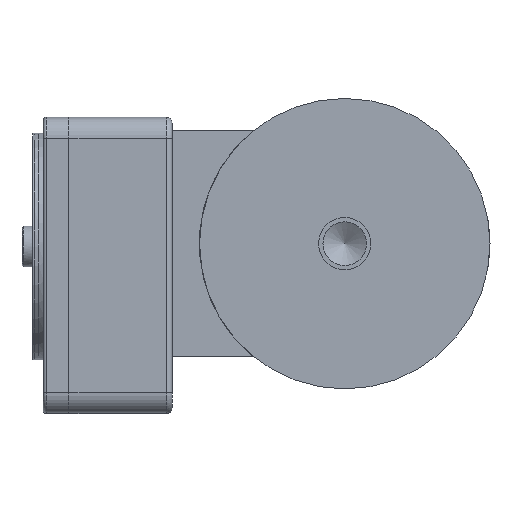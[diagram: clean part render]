
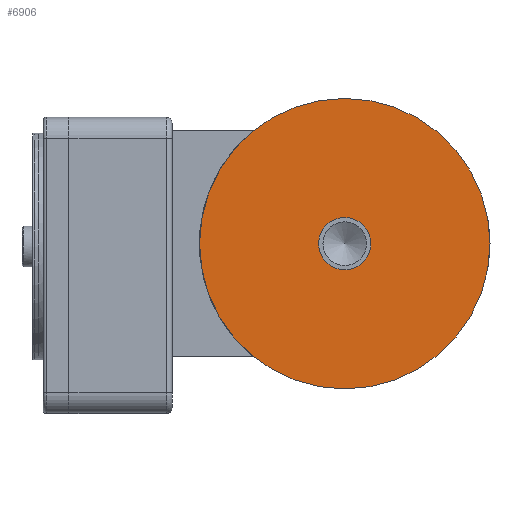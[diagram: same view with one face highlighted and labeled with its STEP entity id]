
A CAD part, front view. The second image highlights one B-rep face of the part: STEP entity #6906.
In plain terms, the highlighted planar face has unit normal (0, -1, 0).
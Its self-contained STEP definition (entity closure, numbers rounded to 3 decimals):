
#511=FACE_BOUND('',#1309,.T.);
#586=PLANE('',#7398);
#874=FACE_OUTER_BOUND('',#1308,.T.);
#1308=EDGE_LOOP('',(#4826));
#1309=EDGE_LOOP('',(#4827));
#2737=CIRCLE('',#7363,9.);
#2756=CIRCLE('',#7395,50.);
#3167=VERTEX_POINT('',#10493);
#3186=VERTEX_POINT('',#10551);
#3785=EDGE_CURVE('',#3167,#3167,#2737,.T.);
#3811=EDGE_CURVE('',#3186,#3186,#2756,.T.);
#4826=ORIENTED_EDGE('',*,*,#3811,.T.);
#4827=ORIENTED_EDGE('',*,*,#3785,.T.);
#6906=ADVANCED_FACE('',(#874,#511),#586,.T.);
#7363=AXIS2_PLACEMENT_3D('',#10494,#8228,#8229);
#7395=AXIS2_PLACEMENT_3D('',#10552,#8299,#8300);
#7398=AXIS2_PLACEMENT_3D('',#10558,#8306,#8307);
#8228=DIRECTION('center_axis',(0.,1.,0.));
#8229=DIRECTION('ref_axis',(1.,0.,0.));
#8299=DIRECTION('center_axis',(0.,-1.,0.));
#8300=DIRECTION('ref_axis',(1.,0.,0.));
#8306=DIRECTION('center_axis',(0.,-1.,0.));
#8307=DIRECTION('ref_axis',(0.,0.,-1.));
#10493=CARTESIAN_POINT('',(-9.,-63.5,0.));
#10494=CARTESIAN_POINT('Origin',(0.,-63.5,0.));
#10551=CARTESIAN_POINT('',(-50.,-63.5,0.));
#10552=CARTESIAN_POINT('Origin',(0.,-63.5,0.));
#10558=CARTESIAN_POINT('Origin',(0.,-63.5,0.));
